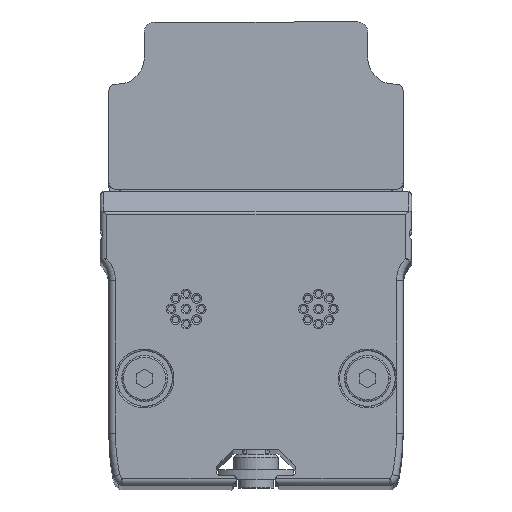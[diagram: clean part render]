
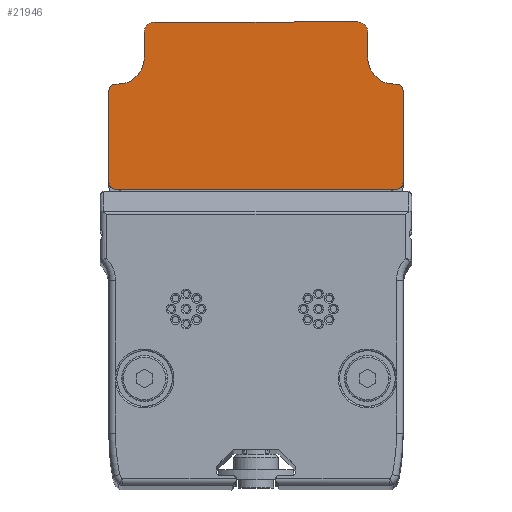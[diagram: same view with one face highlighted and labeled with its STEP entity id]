
A CAD part, top view. The second image highlights one B-rep face of the part: STEP entity #21946.
In plain terms, the highlighted planar face has unit normal (0, 0, 1).
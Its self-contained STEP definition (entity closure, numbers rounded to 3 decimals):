
#114 = DIRECTION ( 'NONE',  ( -1., 0., 0. ) ) ;
#858 = VERTEX_POINT ( 'NONE', #20820 ) ;
#940 = DIRECTION ( 'NONE',  ( 0., 0., 1. ) ) ;
#958 = DIRECTION ( 'NONE',  ( -1., 0., 0. ) ) ;
#1175 = DIRECTION ( 'NONE',  ( -1., 0., 0. ) ) ;
#1231 = EDGE_CURVE ( 'NONE', #17454, #15675, #1271, .T. ) ;
#1271 = CIRCLE ( 'NONE', #4417, 1. ) ;
#1390 = CARTESIAN_POINT ( 'NONE',  ( 21.1, 42.9, 379. ) ) ;
#1643 = CARTESIAN_POINT ( 'NONE',  ( 21.5, 37.9, 379. ) ) ;
#1852 = DIRECTION ( 'NONE',  ( 0., 0., -1. ) ) ;
#2229 = ORIENTED_EDGE ( 'NONE', *, *, #28766, .T. ) ;
#2286 = DIRECTION ( 'NONE',  ( 1., 0., 0. ) ) ;
#2461 = CIRCLE ( 'NONE', #14522, 1.6 ) ;
#2508 = EDGE_CURVE ( 'NONE', #7444, #18390, #29645, .T. ) ;
#3010 = LINE ( 'NONE', #13013, #29491 ) ;
#3060 = VERTEX_POINT ( 'NONE', #3489 ) ;
#3088 = DIRECTION ( 'NONE',  ( 1., 0., 0. ) ) ;
#3489 = CARTESIAN_POINT ( 'NONE',  ( -21.5, 38.9, 379. ) ) ;
#3519 = VERTEX_POINT ( 'NONE', #13844 ) ;
#3709 = VERTEX_POINT ( 'NONE', #11700 ) ;
#4417 = AXIS2_PLACEMENT_3D ( 'NONE', #5695, #940, #3088 ) ;
#4733 = EDGE_CURVE ( 'NONE', #3709, #6756, #21176, .T. ) ;
#4746 = EDGE_CURVE ( 'NONE', #3060, #30768, #16273, .T. ) ;
#4937 = CARTESIAN_POINT ( 'NONE',  ( -17.1, 0., 379. ) ) ;
#5061 = AXIS2_PLACEMENT_3D ( 'NONE', #12778, #24765, #2286 ) ;
#5228 = CARTESIAN_POINT ( 'NONE',  ( 0., 0., 379. ) ) ;
#5695 = CARTESIAN_POINT ( 'NONE',  ( -21.5, 23.8, 379. ) ) ;
#5735 = VECTOR ( 'NONE', #20959, 1000. ) ;
#6070 = LINE ( 'NONE', #28551, #13575 ) ;
#6073 = VECTOR ( 'NONE', #14469, 1000. ) ;
#6105 = CARTESIAN_POINT ( 'NONE',  ( 22.5, 37.9, 379. ) ) ;
#6246 = VECTOR ( 'NONE', #1175, 1000. ) ;
#6422 = DIRECTION ( 'NONE',  ( 1., 0., 0. ) ) ;
#6444 = DIRECTION ( 'NONE',  ( -1., 0., 0. ) ) ;
#6479 = CARTESIAN_POINT ( 'NONE',  ( -22.5, 23.8, 379. ) ) ;
#6690 = CARTESIAN_POINT ( 'NONE',  ( 0., 38.9, 379. ) ) ;
#6756 = VERTEX_POINT ( 'NONE', #26868 ) ;
#7306 = EDGE_CURVE ( 'NONE', #3519, #22653, #32199, .T. ) ;
#7444 = VERTEX_POINT ( 'NONE', #23292 ) ;
#7617 = DIRECTION ( 'NONE',  ( -1., 0., 0. ) ) ;
#9451 = ORIENTED_EDGE ( 'NONE', *, *, #21905, .T. ) ;
#9565 = EDGE_CURVE ( 'NONE', #3709, #7444, #16017, .T. ) ;
#9578 = CARTESIAN_POINT ( 'NONE',  ( 22.5, 23.8, 379. ) ) ;
#10272 = VERTEX_POINT ( 'NONE', #14680 ) ;
#10959 = CARTESIAN_POINT ( 'NONE',  ( -22.5, 37.9, 379. ) ) ;
#11190 = CARTESIAN_POINT ( 'NONE',  ( 15.5, 46.8, 379. ) ) ;
#11388 = DIRECTION ( 'NONE',  ( 1., 0., 0. ) ) ;
#11588 = VERTEX_POINT ( 'NONE', #6105 ) ;
#11700 = CARTESIAN_POINT ( 'NONE',  ( 15.5, 48.4, 379. ) ) ;
#11812 = EDGE_CURVE ( 'NONE', #14566, #15675, #6070, .T. ) ;
#12241 = ORIENTED_EDGE ( 'NONE', *, *, #4746, .F. ) ;
#12448 = DIRECTION ( 'NONE',  ( 0., 0., 1. ) ) ;
#12570 = ORIENTED_EDGE ( 'NONE', *, *, #27871, .F. ) ;
#12572 = CARTESIAN_POINT ( 'NONE',  ( -15.5, 46.8, 379. ) ) ;
#12778 = CARTESIAN_POINT ( 'NONE',  ( -21.5, 37.9, 379. ) ) ;
#13013 = CARTESIAN_POINT ( 'NONE',  ( 22.5, 0., 379. ) ) ;
#13064 = VECTOR ( 'NONE', #6422, 1000. ) ;
#13203 = AXIS2_PLACEMENT_3D ( 'NONE', #1390, #14191, #11388 ) ;
#13575 = VECTOR ( 'NONE', #25933, 1000. ) ;
#13844 = CARTESIAN_POINT ( 'NONE',  ( -17.1, 46.8, 379. ) ) ;
#14088 = VECTOR ( 'NONE', #24716, 1000. ) ;
#14191 = DIRECTION ( 'NONE',  ( 0., 0., -1. ) ) ;
#14469 = DIRECTION ( 'NONE',  ( 0., -1., 0. ) ) ;
#14522 = AXIS2_PLACEMENT_3D ( 'NONE', #12572, #22566, #114 ) ;
#14566 = VERTEX_POINT ( 'NONE', #22648 ) ;
#14614 = DIRECTION ( 'NONE',  ( 1., 0., 0. ) ) ;
#14680 = CARTESIAN_POINT ( 'NONE',  ( 21.5, 38.9, 379. ) ) ;
#15009 = CARTESIAN_POINT ( 'NONE',  ( -21.5, 22.8, 379. ) ) ;
#15205 = CARTESIAN_POINT ( 'NONE',  ( 17.1, 0., 379. ) ) ;
#15225 = ORIENTED_EDGE ( 'NONE', *, *, #29948, .T. ) ;
#15675 = VERTEX_POINT ( 'NONE', #15009 ) ;
#16017 = CIRCLE ( 'NONE', #30166, 1.6 ) ;
#16273 = LINE ( 'NONE', #28899, #13064 ) ;
#16305 = EDGE_LOOP ( 'NONE', ( #12241, #15225, #12570, #24878, #17182, #9451, #23731, #32297, #26118, #16536, #28006, #32062, #26716, #25797, #20681, #2229 ) ) ;
#16477 = EDGE_CURVE ( 'NONE', #29717, #11588, #3010, .T. ) ;
#16536 = ORIENTED_EDGE ( 'NONE', *, *, #17365, .T. ) ;
#16630 = CARTESIAN_POINT ( 'NONE',  ( -21.1, 38.9, 379. ) ) ;
#16867 = CIRCLE ( 'NONE', #13203, 4. ) ;
#17182 = ORIENTED_EDGE ( 'NONE', *, *, #11812, .F. ) ;
#17231 = CARTESIAN_POINT ( 'NONE',  ( 21.5, 23.8, 379. ) ) ;
#17365 = EDGE_CURVE ( 'NONE', #858, #18390, #16867, .T. ) ;
#17454 = VERTEX_POINT ( 'NONE', #6479 ) ;
#17695 = PLANE ( 'NONE',  #25318 ) ;
#18195 = CIRCLE ( 'NONE', #20811, 4. ) ;
#18390 = VERTEX_POINT ( 'NONE', #27394 ) ;
#18504 = CARTESIAN_POINT ( 'NONE',  ( -22.5, 0., 379. ) ) ;
#18661 = AXIS2_PLACEMENT_3D ( 'NONE', #1643, #21990, #14614 ) ;
#19211 = VECTOR ( 'NONE', #7617, 1000. ) ;
#19563 = AXIS2_PLACEMENT_3D ( 'NONE', #17231, #12448, #27713 ) ;
#20681 = ORIENTED_EDGE ( 'NONE', *, *, #7306, .T. ) ;
#20811 = AXIS2_PLACEMENT_3D ( 'NONE', #21209, #1852, #24336 ) ;
#20820 = CARTESIAN_POINT ( 'NONE',  ( 21.1, 38.9, 379. ) ) ;
#20959 = DIRECTION ( 'NONE',  ( 0., 1., 0. ) ) ;
#21176 = LINE ( 'NONE', #31043, #6246 ) ;
#21209 = CARTESIAN_POINT ( 'NONE',  ( -21.1, 42.9, 379. ) ) ;
#21905 = EDGE_CURVE ( 'NONE', #14566, #29717, #29523, .T. ) ;
#21946 = ADVANCED_FACE ( 'NONE', ( #30173 ), #17695, .T. ) ;
#21950 = LINE ( 'NONE', #6690, #19211 ) ;
#21990 = DIRECTION ( 'NONE',  ( 0., 0., 1. ) ) ;
#22566 = DIRECTION ( 'NONE',  ( 0., 0., -1. ) ) ;
#22648 = CARTESIAN_POINT ( 'NONE',  ( 21.5, 22.8, 379. ) ) ;
#22653 = VERTEX_POINT ( 'NONE', #26442 ) ;
#23015 = DIRECTION ( 'NONE',  ( 0., 1., 0. ) ) ;
#23292 = CARTESIAN_POINT ( 'NONE',  ( 17.1, 46.8, 379. ) ) ;
#23731 = ORIENTED_EDGE ( 'NONE', *, *, #16477, .T. ) ;
#24336 = DIRECTION ( 'NONE',  ( 1., 0., 0. ) ) ;
#24716 = DIRECTION ( 'NONE',  ( 0., -1., 0. ) ) ;
#24765 = DIRECTION ( 'NONE',  ( 0., 0., 1. ) ) ;
#24878 = ORIENTED_EDGE ( 'NONE', *, *, #1231, .T. ) ;
#25318 = AXIS2_PLACEMENT_3D ( 'NONE', #5228, #28040, #958 ) ;
#25580 = LINE ( 'NONE', #18504, #5735 ) ;
#25797 = ORIENTED_EDGE ( 'NONE', *, *, #30209, .F. ) ;
#25933 = DIRECTION ( 'NONE',  ( -1., 0., 0. ) ) ;
#26118 = ORIENTED_EDGE ( 'NONE', *, *, #31548, .T. ) ;
#26442 = CARTESIAN_POINT ( 'NONE',  ( -17.1, 42.9, 379. ) ) ;
#26716 = ORIENTED_EDGE ( 'NONE', *, *, #4733, .T. ) ;
#26868 = CARTESIAN_POINT ( 'NONE',  ( -15.5, 48.4, 379. ) ) ;
#27394 = CARTESIAN_POINT ( 'NONE',  ( 17.1, 42.9, 379. ) ) ;
#27713 = DIRECTION ( 'NONE',  ( 1., 0., 0. ) ) ;
#27871 = EDGE_CURVE ( 'NONE', #17454, #28902, #25580, .T. ) ;
#28006 = ORIENTED_EDGE ( 'NONE', *, *, #2508, .F. ) ;
#28040 = DIRECTION ( 'NONE',  ( 0., 0., 1. ) ) ;
#28140 = CIRCLE ( 'NONE', #5061, 1. ) ;
#28551 = CARTESIAN_POINT ( 'NONE',  ( 0., 22.8, 379. ) ) ;
#28766 = EDGE_CURVE ( 'NONE', #22653, #30768, #18195, .T. ) ;
#28899 = CARTESIAN_POINT ( 'NONE',  ( 0., 38.9, 379. ) ) ;
#28902 = VERTEX_POINT ( 'NONE', #10959 ) ;
#29491 = VECTOR ( 'NONE', #23015, 1000. ) ;
#29523 = CIRCLE ( 'NONE', #19563, 1. ) ;
#29645 = LINE ( 'NONE', #15205, #14088 ) ;
#29717 = VERTEX_POINT ( 'NONE', #9578 ) ;
#29948 = EDGE_CURVE ( 'NONE', #3060, #28902, #28140, .T. ) ;
#30166 = AXIS2_PLACEMENT_3D ( 'NONE', #11190, #30901, #6444 ) ;
#30173 = FACE_OUTER_BOUND ( 'NONE', #16305, .T. ) ;
#30202 = CIRCLE ( 'NONE', #18661, 1. ) ;
#30209 = EDGE_CURVE ( 'NONE', #3519, #6756, #2461, .T. ) ;
#30768 = VERTEX_POINT ( 'NONE', #16630 ) ;
#30901 = DIRECTION ( 'NONE',  ( 0., 0., -1. ) ) ;
#31043 = CARTESIAN_POINT ( 'NONE',  ( 0., 48.4, 379. ) ) ;
#31191 = EDGE_CURVE ( 'NONE', #11588, #10272, #30202, .T. ) ;
#31548 = EDGE_CURVE ( 'NONE', #10272, #858, #21950, .T. ) ;
#32062 = ORIENTED_EDGE ( 'NONE', *, *, #9565, .F. ) ;
#32199 = LINE ( 'NONE', #4937, #6073 ) ;
#32297 = ORIENTED_EDGE ( 'NONE', *, *, #31191, .T. ) ;
